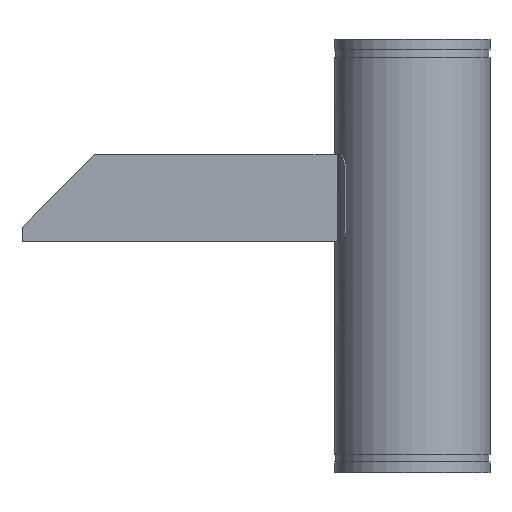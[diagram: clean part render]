
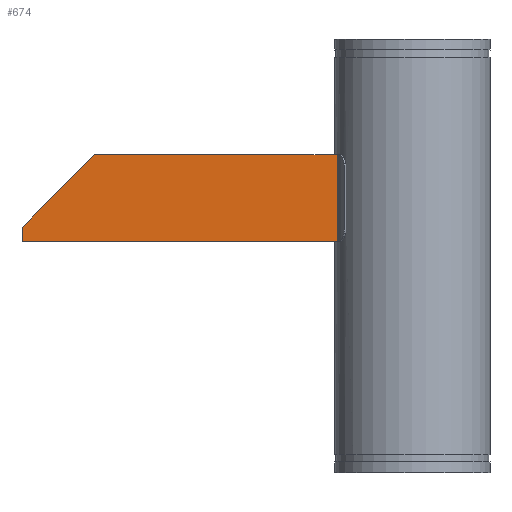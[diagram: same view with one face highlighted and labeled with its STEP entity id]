
A CAD part, top view. The second image highlights one B-rep face of the part: STEP entity #674.
In plain terms, the highlighted planar face has unit normal (0, 0, 1).
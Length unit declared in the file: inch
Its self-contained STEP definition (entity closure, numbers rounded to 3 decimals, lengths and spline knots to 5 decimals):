
#28=PLANE('',#746);
#93=FACE_OUTER_BOUND('',#127,.T.);
#127=EDGE_LOOP('',(#511,#512,#513,#514,#515));
#164=LINE('',#1139,#214);
#181=LINE('',#1197,#231);
#186=LINE('',#1229,#236);
#187=LINE('',#1231,#237);
#188=LINE('',#1232,#238);
#214=VECTOR('',#813,0.3937);
#231=VECTOR('',#848,0.3937);
#236=VECTOR('',#885,0.3937);
#237=VECTOR('',#886,0.3937);
#238=VECTOR('',#887,0.3937);
#278=VERTEX_POINT('',#1136);
#279=VERTEX_POINT('',#1138);
#293=VERTEX_POINT('',#1195);
#304=VERTEX_POINT('',#1228);
#305=VERTEX_POINT('',#1230);
#348=EDGE_CURVE('',#279,#278,#164,.T.);
#369=EDGE_CURVE('',#293,#278,#181,.T.);
#386=EDGE_CURVE('',#293,#304,#186,.T.);
#387=EDGE_CURVE('',#305,#304,#187,.T.);
#388=EDGE_CURVE('',#279,#305,#188,.T.);
#511=ORIENTED_EDGE('',*,*,#348,.T.);
#512=ORIENTED_EDGE('',*,*,#369,.F.);
#513=ORIENTED_EDGE('',*,*,#386,.T.);
#514=ORIENTED_EDGE('',*,*,#387,.F.);
#515=ORIENTED_EDGE('',*,*,#388,.F.);
#674=ADVANCED_FACE('',(#93),#28,.T.);
#746=AXIS2_PLACEMENT_3D('',#1227,#883,#884);
#813=DIRECTION('',(0.,1.,0.));
#848=DIRECTION('',(1.,0.,0.));
#883=DIRECTION('center_axis',(0.,0.,1.));
#884=DIRECTION('ref_axis',(1.,0.,0.));
#885=DIRECTION('',(-0.707,-0.707,0.));
#886=DIRECTION('',(0.,1.,0.));
#887=DIRECTION('',(-1.,0.,0.));
#1136=CARTESIAN_POINT('',(-5.2039,7.,2.));
#1138=CARTESIAN_POINT('',(-5.2039,1.,2.));
#1139=CARTESIAN_POINT('',(-5.2039,1.,2.));
#1195=CARTESIAN_POINT('',(-22.,7.,2.));
#1197=CARTESIAN_POINT('',(0.,7.,2.));
#1227=CARTESIAN_POINT('Origin',(-27.,1.,2.));
#1228=CARTESIAN_POINT('',(-27.,2.,2.));
#1229=CARTESIAN_POINT('',(-27.25,1.75,2.));
#1230=CARTESIAN_POINT('',(-27.,1.,2.));
#1231=CARTESIAN_POINT('',(-27.,1.,2.));
#1232=CARTESIAN_POINT('',(0.,1.,2.));
